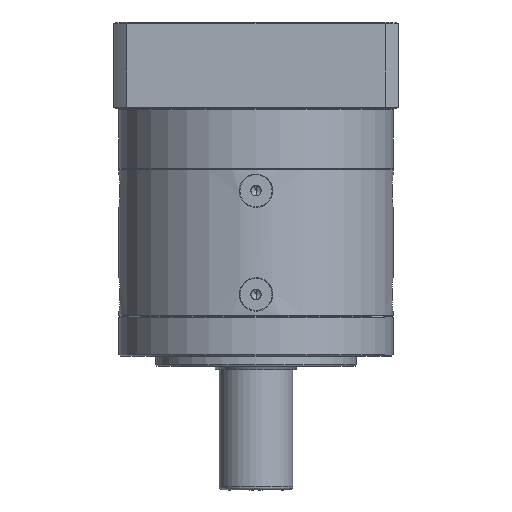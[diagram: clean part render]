
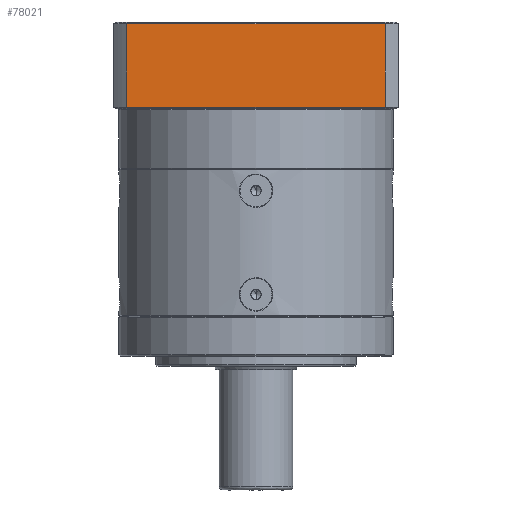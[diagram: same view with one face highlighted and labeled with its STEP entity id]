
A CAD part, front view. The second image highlights one B-rep face of the part: STEP entity #78021.
In plain terms, the highlighted planar face has unit normal (0, -1, 0).
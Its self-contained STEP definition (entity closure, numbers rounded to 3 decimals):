
#4948 = CARTESIAN_POINT ( 'NONE',  ( -57.74, -21.694, 46.285 ) ) ;
#6487 = EDGE_CURVE ( 'NONE', #79121, #93784, #25847, .T. ) ;
#14889 = DIRECTION ( 'NONE',  ( -1., 0., 0. ) ) ;
#19986 = LINE ( 'NONE', #69083, #69377 ) ;
#22437 = VECTOR ( 'NONE', #121443, 1000. ) ;
#22801 = CARTESIAN_POINT ( 'NONE',  ( -57.74, -21.694, 45.785 ) ) ;
#23286 = ORIENTED_EDGE ( 'NONE', *, *, #44780, .T. ) ;
#24364 = PLANE ( 'NONE',  #68659 ) ;
#25847 = LINE ( 'NONE', #22801, #118451 ) ;
#27440 = EDGE_CURVE ( 'NONE', #93784, #33833, #19986, .T. ) ;
#33833 = VERTEX_POINT ( 'NONE', #112376 ) ;
#38667 = ORIENTED_EDGE ( 'NONE', *, *, #27440, .F. ) ;
#40693 = CARTESIAN_POINT ( 'NONE',  ( -135.2, -21.694, 20.785 ) ) ;
#44780 = EDGE_CURVE ( 'NONE', #53613, #33833, #51822, .T. ) ;
#46601 = VECTOR ( 'NONE', #95890, 1000. ) ;
#51822 = LINE ( 'NONE', #52539, #22437 ) ;
#52539 = CARTESIAN_POINT ( 'NONE',  ( -57.74, -21.694, 20.785 ) ) ;
#53613 = VERTEX_POINT ( 'NONE', #40693 ) ;
#60602 = ORIENTED_EDGE ( 'NONE', *, *, #6487, .F. ) ;
#68659 = AXIS2_PLACEMENT_3D ( 'NONE', #4948, #73953, #14889 ) ;
#69083 = CARTESIAN_POINT ( 'NONE',  ( -57.74, -21.694, 46.285 ) ) ;
#69377 = VECTOR ( 'NONE', #89394, 1000. ) ;
#72705 = LINE ( 'NONE', #86005, #46601 ) ;
#73953 = DIRECTION ( 'NONE',  ( 0., 1., 0. ) ) ;
#78021 = ADVANCED_FACE ( 'NONE', ( #123693 ), #24364, .F. ) ;
#78168 = EDGE_CURVE ( 'NONE', #53613, #79121, #72705, .T. ) ;
#79121 = VERTEX_POINT ( 'NONE', #114176 ) ;
#86005 = CARTESIAN_POINT ( 'NONE',  ( -135.2, -21.694, 46.285 ) ) ;
#89394 = DIRECTION ( 'NONE',  ( 0., 0., -1. ) ) ;
#93784 = VERTEX_POINT ( 'NONE', #107292 ) ;
#95890 = DIRECTION ( 'NONE',  ( 0., 0., 1. ) ) ;
#107292 = CARTESIAN_POINT ( 'NONE',  ( -57.74, -21.694, 45.785 ) ) ;
#111609 = DIRECTION ( 'NONE',  ( 1., 0., 0. ) ) ;
#112376 = CARTESIAN_POINT ( 'NONE',  ( -57.74, -21.694, 20.785 ) ) ;
#114176 = CARTESIAN_POINT ( 'NONE',  ( -135.2, -21.694, 45.785 ) ) ;
#117215 = EDGE_LOOP ( 'NONE', ( #23286, #38667, #60602, #123119 ) ) ;
#118451 = VECTOR ( 'NONE', #111609, 1000. ) ;
#121443 = DIRECTION ( 'NONE',  ( 1., 0., 0. ) ) ;
#123119 = ORIENTED_EDGE ( 'NONE', *, *, #78168, .F. ) ;
#123693 = FACE_OUTER_BOUND ( 'NONE', #117215, .T. ) ;
